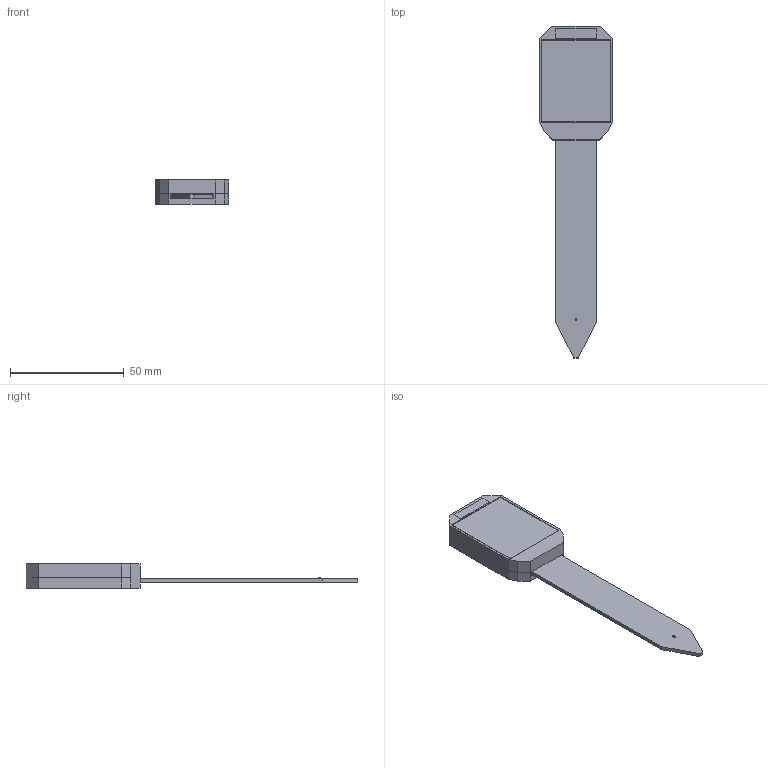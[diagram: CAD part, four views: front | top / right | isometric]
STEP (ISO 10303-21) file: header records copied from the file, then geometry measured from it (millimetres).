
FILE_DESCRIPTION(('Open CASCADE Model'),'2;1');
FILE_NAME('Open CASCADE Shape Model','2026-09-30T23:04:28',('Author'),( 'Open CASCADE'),'Open CASCADE STEP processor 8.0','Open CASCADE 8.0' ,'Unknown');
FILE_SCHEMA(('AP242_MANAGED_MODEL_BASED_3D_ENGINEERING_MIM_LF {1 0 10303 442 1 1 4 }' ));
Length unit declared in the file: millimetre
Products named in the file (6): MSV4 Minimum Profile Adhesive Base; MSV4 Minimum Profile Adhesive Solar Lid; MSV4 PCB - Corrected 1.6 mm Reference; 10 x 20 x 2 mm Top-Side Battery Placement Reference; 36 x 30 mm Solar Panel Reference; E73 Antenna Keepout Reference - No Solar Panel
Bounding box: 32.4 x 146.2 x 10.65 mm (x, y, z)
Volume: 13618.1 mm3; surface area: 20490.9 mm2
Topology: 238 solids, 238 shells, 3374 faces, 8505 edges, 5630 vertices
Faces by surface type: plane 2433, cylinder 453, bspline 368, extrusion 92, sphere 24, torus 4
Full cylindrical faces by diameter (mm): 0.137 x2, 0.222 x2, 0.268 x2, 1.6 x2
Entity records: 221450 total; most frequent: CARTESIAN_POINT 53126, DIRECTION 28686, VECTOR 20439, LINE 20347, ORIENTED_EDGE 17010, PCURVE 17010, DEFINITIONAL_REPRESENTATION 17010, EDGE_CURVE 8505
